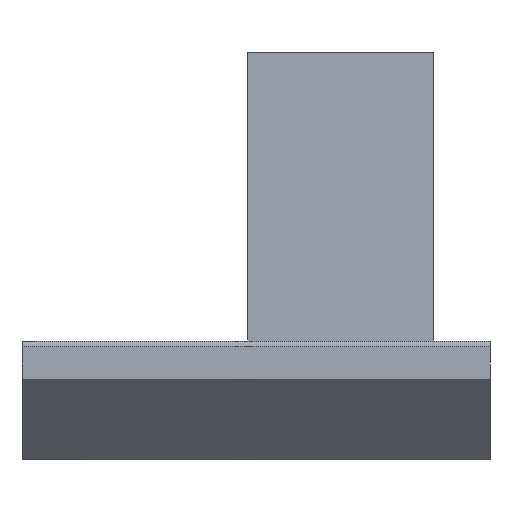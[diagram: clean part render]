
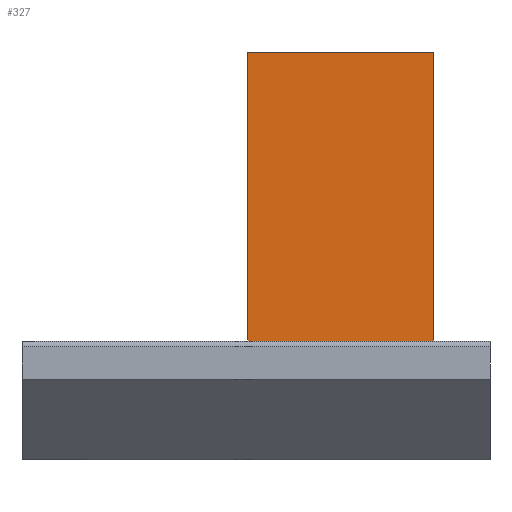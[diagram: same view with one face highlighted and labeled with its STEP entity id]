
A CAD part, front view. The second image highlights one B-rep face of the part: STEP entity #327.
In plain terms, the highlighted planar face has unit normal (0, -1, 0).
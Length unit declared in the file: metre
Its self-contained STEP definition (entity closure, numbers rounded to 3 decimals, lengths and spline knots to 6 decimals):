
#26=LINE('',#489,#64);
#39=LINE('',#524,#77);
#40=LINE('',#526,#78);
#41=LINE('',#528,#79);
#64=VECTOR('',#396,1.);
#77=VECTOR('',#431,1.);
#78=VECTOR('',#432,1.);
#79=VECTOR('',#433,1.);
#139=ORIENTED_EDGE('',*,*,#191,.F.);
#140=ORIENTED_EDGE('',*,*,#209,.F.);
#141=ORIENTED_EDGE('',*,*,#210,.T.);
#142=ORIENTED_EDGE('',*,*,#211,.T.);
#191=EDGE_CURVE('',#232,#234,#26,.T.);
#209=EDGE_CURVE('',#245,#232,#39,.T.);
#210=EDGE_CURVE('',#245,#246,#40,.T.);
#211=EDGE_CURVE('',#246,#234,#41,.T.);
#232=VERTEX_POINT('',#487);
#234=VERTEX_POINT('',#490);
#245=VERTEX_POINT('',#525);
#246=VERTEX_POINT('',#527);
#272=EDGE_LOOP('',(#139,#140,#141,#142));
#294=FACE_BOUND('',#272,.T.);
#311=PLANE('',#364);
#327=ADVANCED_FACE('',(#294),#311,.T.);
#364=AXIS2_PLACEMENT_3D('',#523,#429,#430);
#396=DIRECTION('',(-1.,0.,0.));
#429=DIRECTION('',(0.,-1.,0.));
#430=DIRECTION('',(0.,0.,-1.));
#431=DIRECTION('',(0.,0.,-1.));
#432=DIRECTION('',(-1.,0.,0.));
#433=DIRECTION('',(0.,0.,-1.));
#487=CARTESIAN_POINT('',(0.0146,-0.0033,0.002092));
#489=CARTESIAN_POINT('',(0.0113,-0.0033,0.002092));
#490=CARTESIAN_POINT('',(0.008,-0.0033,0.002092));
#523=CARTESIAN_POINT('',(0.0113,-0.0033,0.012342));
#524=CARTESIAN_POINT('',(0.0146,-0.0033,0.012342));
#525=CARTESIAN_POINT('',(0.0146,-0.0033,0.012342));
#526=CARTESIAN_POINT('',(0.0113,-0.0033,0.012342));
#527=CARTESIAN_POINT('',(0.008,-0.0033,0.012342));
#528=CARTESIAN_POINT('',(0.008,-0.0033,0.012342));
